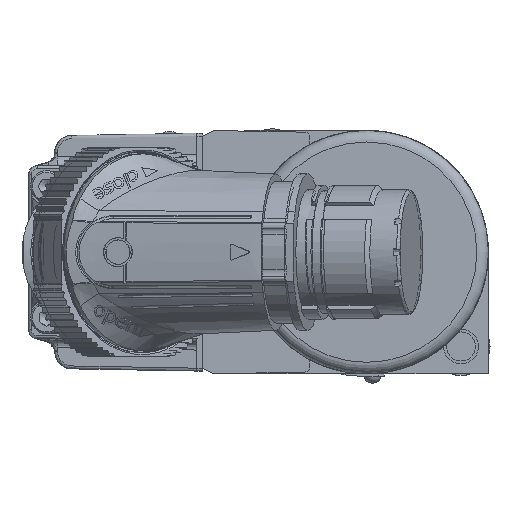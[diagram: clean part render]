
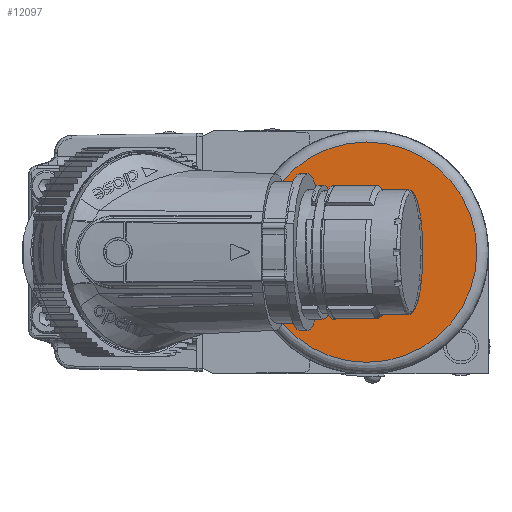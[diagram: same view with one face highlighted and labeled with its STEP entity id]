
A CAD part, left-side view. The second image highlights one B-rep face of the part: STEP entity #12097.
In plain terms, the highlighted planar face has unit normal (-1, 0, 0).
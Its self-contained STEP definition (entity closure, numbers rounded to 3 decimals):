
#6793 = CARTESIAN_POINT ( 'NONE',  ( -279., 0., 19. ) ) ;
#10986 = AXIS2_PLACEMENT_3D ( 'NONE', #46329, #91930, #91726 ) ;
#12097 = ADVANCED_FACE ( 'NONE', ( #79416 ), #94772, .T. ) ;
#12421 = ORIENTED_EDGE ( 'NONE', *, *, #83788, .T. ) ;
#32279 = EDGE_LOOP ( 'NONE', ( #12421 ) ) ;
#33829 = CIRCLE ( 'NONE', #83779, 19. ) ;
#36113 = DIRECTION ( 'NONE',  ( -1., 0., 0. ) ) ;
#46329 = CARTESIAN_POINT ( 'NONE',  ( -279., 0., 0. ) ) ;
#62118 = VERTEX_POINT ( 'NONE', #6793 ) ;
#79416 = FACE_OUTER_BOUND ( 'NONE', #32279, .T. ) ;
#80839 = CARTESIAN_POINT ( 'NONE',  ( -279., 0., 0. ) ) ;
#83779 = AXIS2_PLACEMENT_3D ( 'NONE', #80839, #36113, #88306 ) ;
#83788 = EDGE_CURVE ( 'NONE', #62118, #62118, #33829, .T. ) ;
#88306 = DIRECTION ( 'NONE',  ( 0., 0., 1. ) ) ;
#91726 = DIRECTION ( 'NONE',  ( 0., 0., 1. ) ) ;
#91930 = DIRECTION ( 'NONE',  ( -1., 0., 0. ) ) ;
#94772 = PLANE ( 'NONE',  #10986 ) ;
